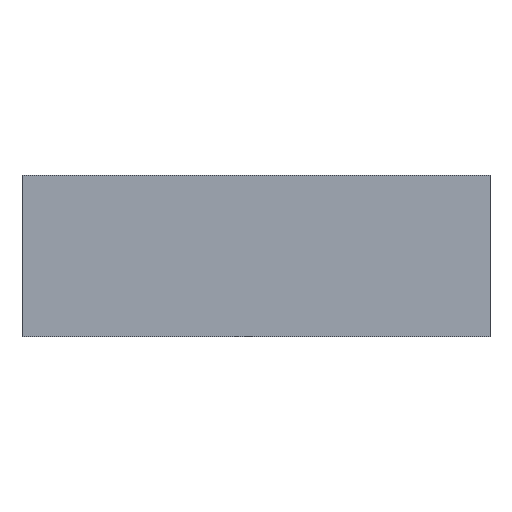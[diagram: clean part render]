
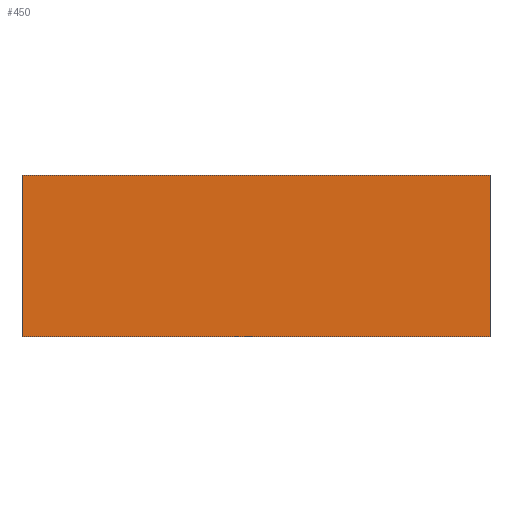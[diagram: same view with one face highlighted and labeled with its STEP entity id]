
A CAD part, left-side view. The second image highlights one B-rep face of the part: STEP entity #450.
In plain terms, the highlighted planar face has unit normal (-1, 0, 0).
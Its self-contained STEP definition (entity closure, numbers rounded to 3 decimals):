
#202 = VERTEX_POINT ( 'NONE', #1134 ) ;
#203 = EDGE_CURVE ( 'NONE', #202, #6147, #1133, .T. ) ;
#204 = EDGE_CURVE ( 'NONE', #202, #453, #1190, .T. ) ;
#205 = ORIENTED_EDGE ( 'NONE', *, *, #203, .T. ) ;
#360 = ORIENTED_EDGE ( 'NONE', *, *, #6164, .T. ) ;
#362 = ORIENTED_EDGE ( 'NONE', *, *, #454, .F. ) ;
#380 = EDGE_LOOP ( 'NONE', ( #360, #362, #5608, #205 ) ) ;
#450 = ADVANCED_FACE ( 'NONE', ( #1828 ), #1812, .F. ) ;
#453 = VERTEX_POINT ( 'NONE', #1859 ) ;
#454 = EDGE_CURVE ( 'NONE', #453, #6143, #1858, .T. ) ;
#1130 = DIRECTION ( 'NONE',  ( 0., 0., -1. ) ) ;
#1131 = VECTOR ( 'NONE', #1130, 1000. ) ;
#1132 = CARTESIAN_POINT ( 'NONE',  ( -18.5, 26.9, 18.6 ) ) ;
#1133 = LINE ( 'NONE', #1132, #1131 ) ;
#1134 = CARTESIAN_POINT ( 'NONE',  ( -18.5, 26.9, 18.6 ) ) ;
#1187 = DIRECTION ( 'NONE',  ( 0., -1., 0. ) ) ;
#1188 = VECTOR ( 'NONE', #1187, 1000. ) ;
#1189 = CARTESIAN_POINT ( 'NONE',  ( -18.5, 26.9, 18.6 ) ) ;
#1190 = LINE ( 'NONE', #1189, #1188 ) ;
#1808 = DIRECTION ( 'NONE',  ( 1., 0., 0. ) ) ;
#1809 = CARTESIAN_POINT ( 'NONE',  ( -18.5, 26.9, 18.6 ) ) ;
#1810 = AXIS2_PLACEMENT_3D ( 'NONE', #1809, #1808, #1863 ) ;
#1812 = PLANE ( 'NONE',  #1810 ) ;
#1828 = FACE_OUTER_BOUND ( 'NONE', #380, .T. ) ;
#1855 = DIRECTION ( 'NONE',  ( 0., 0., -1. ) ) ;
#1856 = VECTOR ( 'NONE', #1855, 1000. ) ;
#1857 = CARTESIAN_POINT ( 'NONE',  ( -18.5, -26.9, 18.6 ) ) ;
#1858 = LINE ( 'NONE', #1857, #1856 ) ;
#1859 = CARTESIAN_POINT ( 'NONE',  ( -18.5, -26.9, 18.6 ) ) ;
#1863 = DIRECTION ( 'NONE',  ( 0., 1., 0. ) ) ;
#4493 = CARTESIAN_POINT ( 'NONE',  ( -18.5, -26.9, 0. ) ) ;
#4547 = CARTESIAN_POINT ( 'NONE',  ( -18.5, 26.9, 0. ) ) ;
#4553 = LINE ( 'NONE', #4606, #4605 ) ;
#4604 = DIRECTION ( 'NONE',  ( 0., -1., 0. ) ) ;
#4605 = VECTOR ( 'NONE', #4604, 1000. ) ;
#4606 = CARTESIAN_POINT ( 'NONE',  ( -18.5, 26.9, 0. ) ) ;
#5608 = ORIENTED_EDGE ( 'NONE', *, *, #204, .F. ) ;
#6143 = VERTEX_POINT ( 'NONE', #4493 ) ;
#6147 = VERTEX_POINT ( 'NONE', #4547 ) ;
#6164 = EDGE_CURVE ( 'NONE', #6147, #6143, #4553, .T. ) ;
